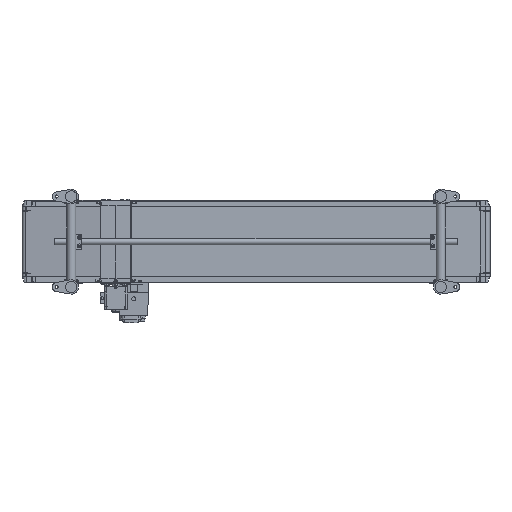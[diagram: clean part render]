
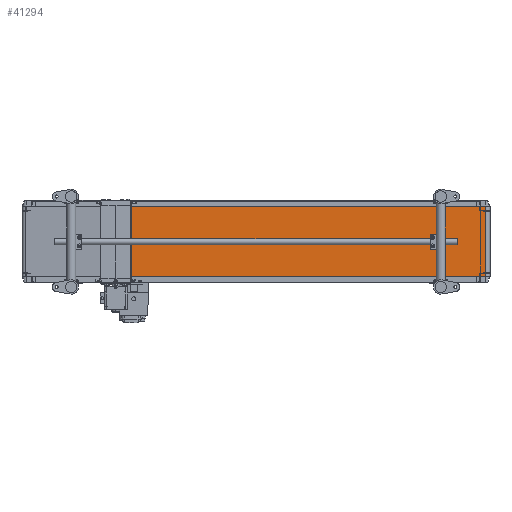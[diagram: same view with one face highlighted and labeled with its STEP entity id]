
A CAD part, front view. The second image highlights one B-rep face of the part: STEP entity #41294.
In plain terms, the highlighted planar face has unit normal (0.023, -1, 0).
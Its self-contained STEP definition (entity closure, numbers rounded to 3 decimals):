
#52 = EDGE_CURVE ( 'NONE', #40730, #54627, #65967, .T. ) ;
#1234 = VECTOR ( 'NONE', #83703, 1000. ) ;
#5169 = CARTESIAN_POINT ( 'NONE',  ( 1982.907, -34.195, -150. ) ) ;
#10070 = ORIENTED_EDGE ( 'NONE', *, *, #83870, .T. ) ;
#10568 = VECTOR ( 'NONE', #71405, 1000. ) ;
#21337 = CARTESIAN_POINT ( 'NONE',  ( 1982.907, -34.195, -150. ) ) ;
#25294 = CARTESIAN_POINT ( 'NONE',  ( 1982.907, -34.195, 150. ) ) ;
#27281 = ORIENTED_EDGE ( 'NONE', *, *, #87245, .F. ) ;
#28674 = VECTOR ( 'NONE', #35859, 1000. ) ;
#28845 = CARTESIAN_POINT ( 'NONE',  ( 1982.907, -34.195, -150. ) ) ;
#35859 = DIRECTION ( 'NONE',  ( 0., 0., 1. ) ) ;
#38980 = AXIS2_PLACEMENT_3D ( 'NONE', #5169, #75080, #91210 ) ;
#40730 = VERTEX_POINT ( 'NONE', #101975 ) ;
#41294 = ADVANCED_FACE ( 'NONE', ( #75090 ), #42671, .F. ) ;
#42671 = PLANE ( 'NONE',  #38980 ) ;
#54627 = VERTEX_POINT ( 'NONE', #60575 ) ;
#56920 = VERTEX_POINT ( 'NONE', #69464 ) ;
#60575 = CARTESIAN_POINT ( 'NONE',  ( 1982.907, -34.195, 150. ) ) ;
#63974 = LINE ( 'NONE', #87191, #10568 ) ;
#64710 = LINE ( 'NONE', #21337, #1234 ) ;
#65212 = CARTESIAN_POINT ( 'NONE',  ( 434.607, -70.005, -150. ) ) ;
#65967 = LINE ( 'NONE', #28845, #28674 ) ;
#66955 = EDGE_CURVE ( 'NONE', #40730, #90540, #64710, .T. ) ;
#69464 = CARTESIAN_POINT ( 'NONE',  ( 434.607, -70.005, 150. ) ) ;
#71405 = DIRECTION ( 'NONE',  ( 0., 0., 1. ) ) ;
#75080 = DIRECTION ( 'NONE',  ( -0.023, 1., 0. ) ) ;
#75090 = FACE_OUTER_BOUND ( 'NONE', #98052, .T. ) ;
#76644 = ORIENTED_EDGE ( 'NONE', *, *, #52, .T. ) ;
#81053 = LINE ( 'NONE', #25294, #99924 ) ;
#83703 = DIRECTION ( 'NONE',  ( -1., -0.023, 0. ) ) ;
#83870 = EDGE_CURVE ( 'NONE', #54627, #56920, #81053, .T. ) ;
#87191 = CARTESIAN_POINT ( 'NONE',  ( 434.607, -70.005, -150. ) ) ;
#87245 = EDGE_CURVE ( 'NONE', #90540, #56920, #63974, .T. ) ;
#89056 = DIRECTION ( 'NONE',  ( -1., -0.023, 0. ) ) ;
#90540 = VERTEX_POINT ( 'NONE', #65212 ) ;
#91210 = DIRECTION ( 'NONE',  ( 1., 0.023, 0. ) ) ;
#92454 = ORIENTED_EDGE ( 'NONE', *, *, #66955, .F. ) ;
#98052 = EDGE_LOOP ( 'NONE', ( #10070, #27281, #92454, #76644 ) ) ;
#99924 = VECTOR ( 'NONE', #89056, 1000. ) ;
#101975 = CARTESIAN_POINT ( 'NONE',  ( 1982.907, -34.195, -150. ) ) ;
